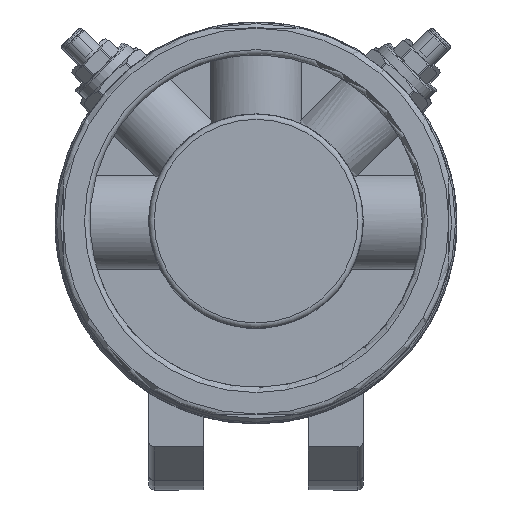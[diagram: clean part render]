
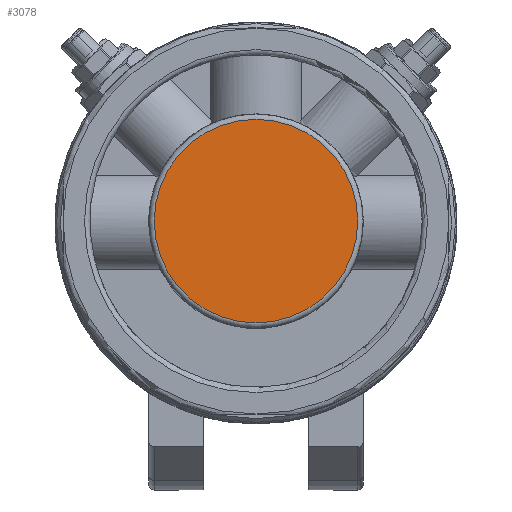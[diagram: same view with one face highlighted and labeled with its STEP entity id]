
A CAD part, top view. The second image highlights one B-rep face of the part: STEP entity #3078.
In plain terms, the highlighted planar face has unit normal (0, 0, 1).
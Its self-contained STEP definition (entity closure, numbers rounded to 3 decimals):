
#2767=CARTESIAN_POINT('',(19.0,0.,220.5));
#2768=VERTEX_POINT('',#2767);
#2769=CARTESIAN_POINT('',(0.,0.,220.5));
#2770=DIRECTION('',(0.0,0.0,-1.0));
#2771=DIRECTION('',(-1.0,0.0,0.0));
#2772=AXIS2_PLACEMENT_3D('',#2769,#2770,#2771);
#2773=CIRCLE('',#2772,19.0);
#2774=EDGE_CURVE('',#2768,#2768,#2773,.T.);
#3070=CARTESIAN_POINT('',(0.,0.,220.5));
#3071=DIRECTION('',(0.0,0.0,-1.0));
#3072=DIRECTION('',(-1.0,0.0,0.0));
#3073=AXIS2_PLACEMENT_3D('',#3070,#3071,#3072);
#3074=PLANE('',#3073);
#3075=ORIENTED_EDGE('',*,*,#2774,.F.);
#3076=EDGE_LOOP('',(#3075));
#3077=FACE_OUTER_BOUND('',#3076,.T.);
#3078=ADVANCED_FACE('',(#3077),#3074,.F.);
